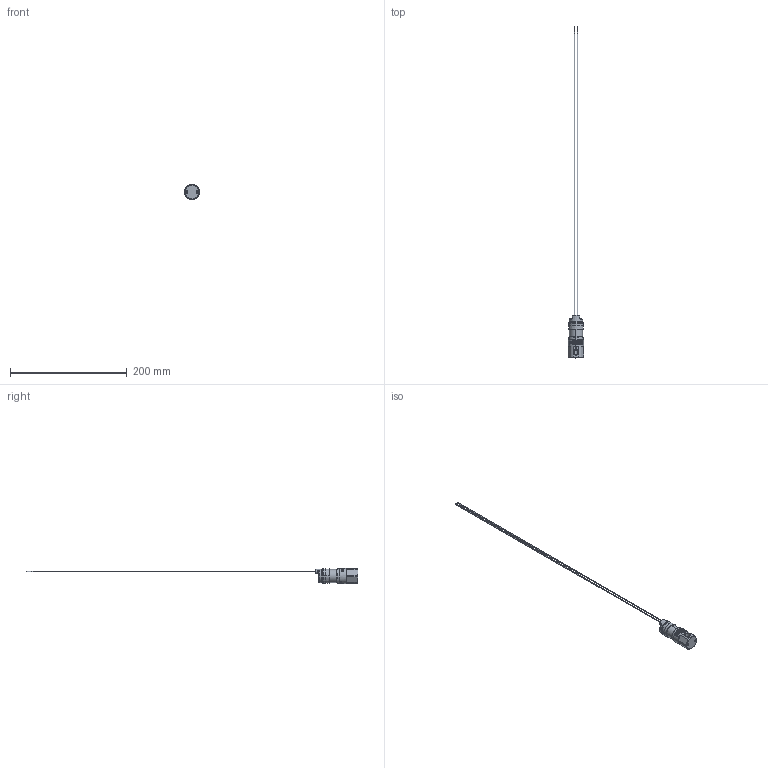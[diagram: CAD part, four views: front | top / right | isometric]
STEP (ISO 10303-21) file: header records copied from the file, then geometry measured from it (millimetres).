
FILE_DESCRIPTION (( 'STEP AP203' ), '1' );
FILE_NAME ('PFV-WXX-PXXXX-XXXX - NPT Ported PFV Valve.STEP', '2019-02-05T20:56:12', ( '' ), ( '' ), 'SwSTEP 2.0', 'SolidWorks 2014', '' );
FILE_SCHEMA (( 'CONFIG_CONTROL_DESIGN' ));
Products named in the file (2): PFV-WXX-PXXXX-XXXX - NPT Ported PFV Valve
Bounding box: 26.03 x 568.23 x 26.06 mm (x, y, z)
Volume: 31026.8 mm3; surface area: 12200.4 mm2
Topology: 1 solids, 1 shells, 850 faces, 2254 edges, 1484 vertices
Faces by surface type: plane 369, bspline 315, cylinder 108, cone 32, torus 26
Entity records: 35848 total; most frequent: CARTESIAN_POINT 17077, ORIENTED_EDGE 4500, DIRECTION 2845, EDGE_CURVE 2250, VERTEX_POINT 1484, AXIS2_PLACEMENT_3D 1108, B_SPLINE_CURVE_WITH_KNOTS 1038, EDGE_LOOP 934
